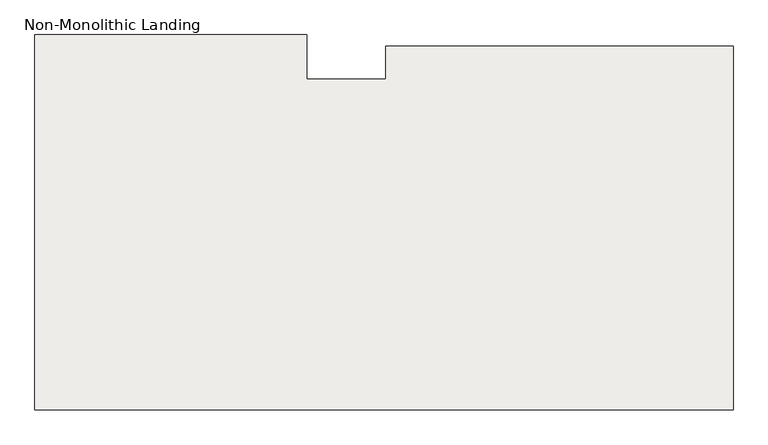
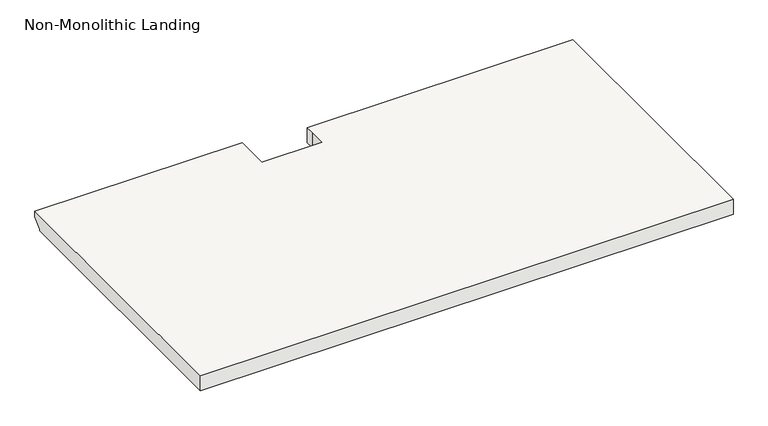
"""IFC4 building model written with IfcOpenShell, lengths in millimetres: slab geometry, Non-Monolithic Landing."""

from ifc_helpers import new_model, si_unit, origin, place, context, project, spatial, faceted_brep, source, transform, mapped, element, save


def non_monolithic_landing_9032badd(model_context):
    return source(origin(), model_context, "Body", "Brep", [
        faceted_brep([(-2725.6477709, -6197.4926766, 1246.9090909), (-1025.7909807, -6197.4926766, 1246.9090909), (-1025.7909807, -5335.6545706, 1246.9090909), (-1025.7909807, -5310.2545706, 1246.9090909), (-1871.5459224, -5310.2545706, 1246.9090909), (-1871.5459224, -5335.6545706, 1246.9090909), (-1871.5459224, -5391.5562734, 1246.9090909), (-2064.400324, -5391.5562734, 1246.9090909), (-2064.400324, -5283.0926766, 1246.9090909), (-2725.6477709, -5283.0926766, 1246.9090909), (-2725.6477709, -5308.4926766, 1196.1090909), (-2064.400324, -5308.4926766, 1196.1090909), (-2064.400324, -5391.5562734, 1196.1090909), (-1871.5459224, -5391.5562734, 1196.1090909), (-1871.5459224, -5335.6545706, 1196.1090909), (-1871.5459224, -5310.2545706, 1196.1090909), (-1025.7909807, -5310.2545706, 1196.1090909), (-1025.7909807, -5335.6545706, 1196.1090909), (-1025.7909807, -6197.4926766, 1196.1090909), (-2725.6477709, -6197.4926766, 1196.1090909), (-2725.6477709, -5283.0926766, 1227.8590909), (-2725.6477709, -5308.4926766, 1202.4590909), (-2064.400324, -5283.0926766, 1227.8590909), (-2064.400324, -5308.4926766, 1202.4590909)], [[[0, 1, 2, 3, 4, 5, 6, 7, 8, 9]], [[10, 11, 12, 13, 14, 15, 16, 17, 18, 19]], [[0, 9, 20, 21, 10, 19]], [[1, 0, 19, 18]], [[3, 2, 17, 16]], [[5, 4, 15, 14]], [[6, 5, 14, 13]], [[7, 6, 13, 12]], [[20, 9, 8, 22]], [[21, 20, 22, 23]], [[11, 10, 21, 23]], [[2, 1, 18, 17]], [[4, 3, 16, 15]], [[8, 7, 12, 11, 23, 22]]]),
    ])


if __name__ == "__main__":
    model = new_model("IFC4")
    model_context = context("Model", 3, world=origin())
    ifc_project = project(units=[si_unit("LENGTHUNIT", "METRE", prefix="MILLI")], contexts=[model_context])
    site = spatial("IfcSite", under=ifc_project)
    building = spatial("IfcBuilding", under=site)
    placement = place(None, origin())
    non_monolithic_landing_shape = non_monolithic_landing_9032badd(model_context)
    element("IfcSlab", 1, ObjectType="Non-Monolithic Landing", at=placement, inside=building, context=model_context, shape_type="MappedRepresentation", body=[
        mapped(non_monolithic_landing_shape, transform((0.0, 0.0, 0.0), x_axis=(1.0, 0.0, 0.0), y_axis=(0.0, 1.0, 0.0), z_axis=(0.0, 0.0, 1.0))),
    ])
    save(model, "model.ifc")
